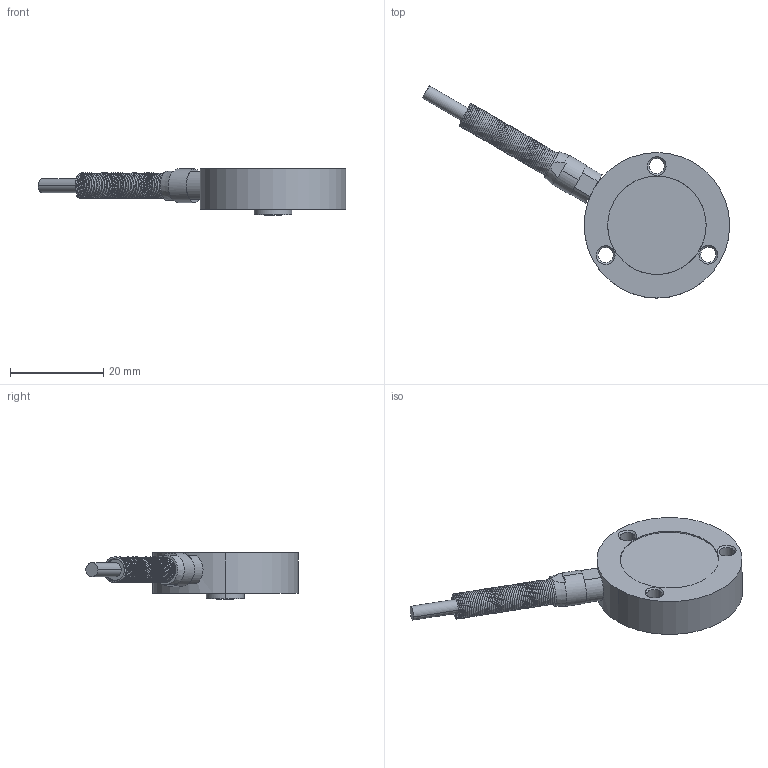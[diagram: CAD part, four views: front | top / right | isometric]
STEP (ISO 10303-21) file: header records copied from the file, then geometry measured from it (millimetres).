
FILE_DESCRIPTION (( 'STEP AP203' ), '1' );
FILE_NAME ('KMB32.STEP', '2023-11-03T10:20:49', ( '' ), ( '' ), 'SwSTEP 2.0', 'SolidWorks 2022', '' );
FILE_SCHEMA (( 'CONFIG_CONTROL_DESIGN' ));
Length unit declared in the file: millimetre
Products named in the file (9): 2; 1_1; KMB32 outline; 2_1; KMB32; SPRING; 1; KMB32 outline_1
Assembly tree (6 placements, depth 3):
  2
  KMB32
    KMB32 outline
      KMB32 outline
      KMB32 outline_1
    1_1
    2_1
    SPRING
  1
Bounding box: 65.89 x 45.5 x 9.87 mm (x, y, z)
Volume: 6376.4 mm3; surface area: 4870.1 mm2
Topology: 4 solids, 5 shells, 87 faces, 192 edges, 119 vertices
Faces by surface type: cylinder 38, plane 24, cone 20, bspline 5
Entity records: 51526 total; most frequent: CARTESIAN_POINT 48783, DIRECTION 382, ORIENTED_EDGE 375, EDGE_CURVE 190, AXIS2_PLACEMENT_3D 155, VERTEX_POINT 119, EDGE_LOOP 105, ADVANCED_FACE 87
